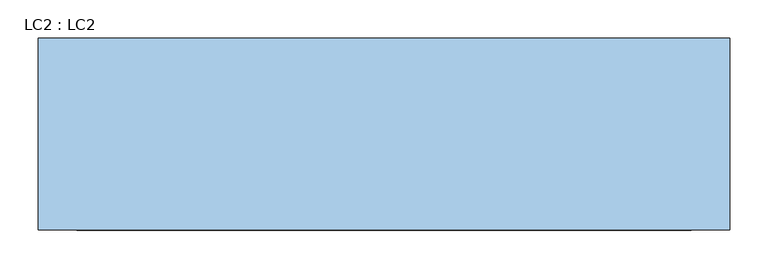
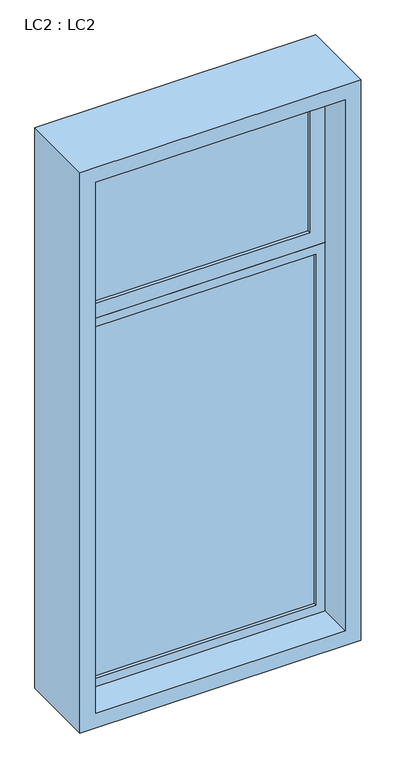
"""IFC4 building model written with IfcOpenShell, lengths in millimetres: window geometry, LC2 : LC2."""

from ifc_helpers import new_model, si_unit, frame, origin, place, context, project, spatial, polyline, outline, extrude, source, transform, mapped, element, save


def lc2_lc2_631be3da(model_context):
    return source(origin(), model_context, "Body", "SweptSolid", [
        extrude(outline(polyline([(3400.0, 450.0), (3400.0, -450.0), (1500.0, -450.0), (1500.0, 450.0), (3400.0, 450.0)]), holes=[polyline([(3350.0, 400.0), (1550.0, 400.0), (1550.0, -400.0), (3350.0, -400.0), (3350.0, 400.0)])]), frame((0.0, -125.0, 0.0), z_axis=(0.0, 1.0, 0.0), x_axis=(0.0, 0.0, 1.0)), (0.0, 0.0, 1.0), 250.0),
        extrude(outline(polyline([(350.0, 5.2868922), (350.0, -4.7131078), (-350.0, -4.7131078), (-350.0, 5.2868922), (350.0, 5.2868922)])), frame((0.0, 0.0, 2850.0), z_axis=(0.0, 0.0, 1.0), x_axis=(1.0, 0.0, 0.0)), (0.0, 0.0, 1.0), 450.0),
        extrude(outline(polyline([(370.0, 5.2868922), (370.0, -4.7131078), (-370.0, -4.7131078), (-370.0, 5.2868922), (370.0, 5.2868922)])), frame((0.0, 0.0, 1580.0), z_axis=(0.0, 0.0, 1.0), x_axis=(1.0, 0.0, 0.0)), (0.0, 0.0, 1.0), 1190.0),
        extrude(outline(polyline([(3350.0, 400.0), (3350.0, -400.0), (2800.0, -400.0), (2800.0, 400.0), (3350.0, 400.0)]), holes=[polyline([(3300.0, 350.0), (2850.0, 350.0), (2850.0, -350.0), (3300.0, -350.0), (3300.0, 350.0)])]), frame((0.0, -15.0, 0.0), z_axis=(0.0, 1.0, 0.0), x_axis=(0.0, 0.0, 1.0)), (0.0, 0.0, 1.0), 30.0),
        extrude(outline(polyline([(2800.0, 400.0), (2800.0, -400.0), (1550.0, -400.0), (1550.0, 400.0), (2800.0, 400.0)]), holes=[polyline([(2770.0, 370.0), (1580.0, 370.0), (1580.0, -370.0), (2770.0, -370.0), (2770.0, 370.0)])]), frame((0.0, -15.0, 0.0), z_axis=(0.0, 1.0, 0.0), x_axis=(0.0, 0.0, 1.0)), (0.0, 0.0, 1.0), 30.0),
    ])


if __name__ == "__main__":
    model = new_model("IFC4")
    model_context = context("Model", 3, world=origin())
    ifc_project = project(units=[si_unit("LENGTHUNIT", "METRE", prefix="MILLI")], contexts=[model_context])
    site = spatial("IfcSite", under=ifc_project)
    building = spatial("IfcBuilding", under=site)
    placement = place(None, origin())
    lc2_lc2_shape = lc2_lc2_631be3da(model_context)
    element("IfcWindow", 1, ObjectType="LC2 : LC2", at=placement, inside=building, context=model_context, shape_type="MappedRepresentation", body=[
        mapped(lc2_lc2_shape, transform((0.0, 0.0, 0.0), x_axis=(1.0, 0.0, 0.0), y_axis=(0.0, 1.0, 0.0), z_axis=(0.0, 0.0, 1.0))),
    ])
    save(model, "model.ifc")
